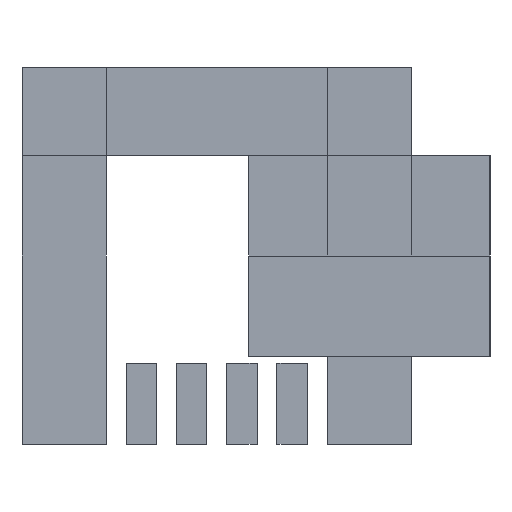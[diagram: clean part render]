
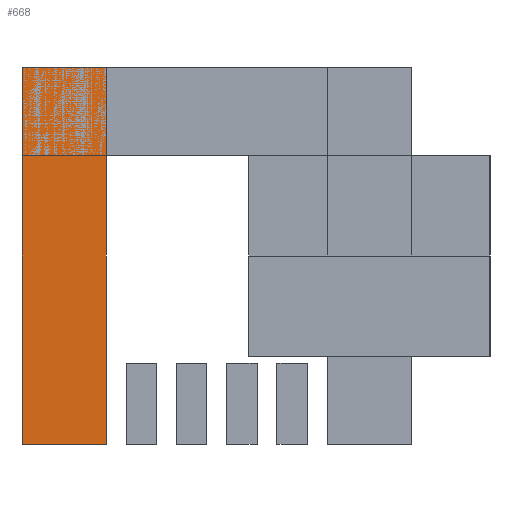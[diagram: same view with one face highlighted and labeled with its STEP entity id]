
A CAD part, left-side view. The second image highlights one B-rep face of the part: STEP entity #668.
In plain terms, the highlighted planar face has unit normal (-1, 0, 0).
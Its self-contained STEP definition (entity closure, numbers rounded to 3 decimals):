
#668 = ADVANCED_FACE('',(#669),#683,.F.);
#669 = FACE_BOUND('',#670,.F.);
#670 = EDGE_LOOP('',(#671,#706,#734,#762));
#671 = ORIENTED_EDGE('',*,*,#672,.F.);
#672 = EDGE_CURVE('',#673,#675,#677,.T.);
#673 = VERTEX_POINT('',#674);
#674 = CARTESIAN_POINT('',(0.,8.79,50.));
#675 = VERTEX_POINT('',#676);
#676 = CARTESIAN_POINT('',(0.,8.79,80.));
#677 = SURFACE_CURVE('',#678,(#682,#694),.PCURVE_S1.);
#678 = LINE('',#679,#680);
#679 = CARTESIAN_POINT('',(0.,8.79,50.));
#680 = VECTOR('',#681,1.);
#681 = DIRECTION('',(0.,0.,1.));
#682 = PCURVE('',#683,#688);
#683 = PLANE('',#684);
#684 = AXIS2_PLACEMENT_3D('',#685,#686,#687);
#685 = CARTESIAN_POINT('',(0.,8.79,50.));
#686 = DIRECTION('',(1.,0.,0.));
#687 = DIRECTION('',(0.,0.,1.));
#688 = DEFINITIONAL_REPRESENTATION('',(#689),#693);
#689 = LINE('',#690,#691);
#690 = CARTESIAN_POINT('',(0.,0.));
#691 = VECTOR('',#692,1.);
#692 = DIRECTION('',(1.,0.));
#693 = ( GEOMETRIC_REPRESENTATION_CONTEXT(2) 
PARAMETRIC_REPRESENTATION_CONTEXT() REPRESENTATION_CONTEXT('2D SPACE',''
  ) );
#694 = PCURVE('',#695,#700);
#695 = PLANE('',#696);
#696 = AXIS2_PLACEMENT_3D('',#697,#698,#699);
#697 = CARTESIAN_POINT('',(0.,8.79,50.));
#698 = DIRECTION('',(0.,1.,0.));
#699 = DIRECTION('',(0.,0.,1.));
#700 = DEFINITIONAL_REPRESENTATION('',(#701),#705);
#701 = LINE('',#702,#703);
#702 = CARTESIAN_POINT('',(0.,0.));
#703 = VECTOR('',#704,1.);
#704 = DIRECTION('',(1.,0.));
#705 = ( GEOMETRIC_REPRESENTATION_CONTEXT(2) 
PARAMETRIC_REPRESENTATION_CONTEXT() REPRESENTATION_CONTEXT('2D SPACE',''
  ) );
#706 = ORIENTED_EDGE('',*,*,#707,.T.);
#707 = EDGE_CURVE('',#673,#708,#710,.T.);
#708 = VERTEX_POINT('',#709);
#709 = CARTESIAN_POINT('',(0.,15.5,50.));
#710 = SURFACE_CURVE('',#711,(#715,#722),.PCURVE_S1.);
#711 = LINE('',#712,#713);
#712 = CARTESIAN_POINT('',(0.,8.79,50.));
#713 = VECTOR('',#714,1.);
#714 = DIRECTION('',(0.,1.,0.));
#715 = PCURVE('',#683,#716);
#716 = DEFINITIONAL_REPRESENTATION('',(#717),#721);
#717 = LINE('',#718,#719);
#718 = CARTESIAN_POINT('',(0.,0.));
#719 = VECTOR('',#720,1.);
#720 = DIRECTION('',(0.,-1.));
#721 = ( GEOMETRIC_REPRESENTATION_CONTEXT(2) 
PARAMETRIC_REPRESENTATION_CONTEXT() REPRESENTATION_CONTEXT('2D SPACE',''
  ) );
#722 = PCURVE('',#723,#728);
#723 = PLANE('',#724);
#724 = AXIS2_PLACEMENT_3D('',#725,#726,#727);
#725 = CARTESIAN_POINT('',(0.,8.79,50.));
#726 = DIRECTION('',(0.,0.,1.));
#727 = DIRECTION('',(1.,0.,0.));
#728 = DEFINITIONAL_REPRESENTATION('',(#729),#733);
#729 = LINE('',#730,#731);
#730 = CARTESIAN_POINT('',(0.,0.));
#731 = VECTOR('',#732,1.);
#732 = DIRECTION('',(0.,1.));
#733 = ( GEOMETRIC_REPRESENTATION_CONTEXT(2) 
PARAMETRIC_REPRESENTATION_CONTEXT() REPRESENTATION_CONTEXT('2D SPACE',''
  ) );
#734 = ORIENTED_EDGE('',*,*,#735,.T.);
#735 = EDGE_CURVE('',#708,#736,#738,.T.);
#736 = VERTEX_POINT('',#737);
#737 = CARTESIAN_POINT('',(0.,15.5,80.));
#738 = SURFACE_CURVE('',#739,(#743,#750),.PCURVE_S1.);
#739 = LINE('',#740,#741);
#740 = CARTESIAN_POINT('',(0.,15.5,50.));
#741 = VECTOR('',#742,1.);
#742 = DIRECTION('',(0.,0.,1.));
#743 = PCURVE('',#683,#744);
#744 = DEFINITIONAL_REPRESENTATION('',(#745),#749);
#745 = LINE('',#746,#747);
#746 = CARTESIAN_POINT('',(0.,-6.71));
#747 = VECTOR('',#748,1.);
#748 = DIRECTION('',(1.,0.));
#749 = ( GEOMETRIC_REPRESENTATION_CONTEXT(2) 
PARAMETRIC_REPRESENTATION_CONTEXT() REPRESENTATION_CONTEXT('2D SPACE',''
  ) );
#750 = PCURVE('',#751,#756);
#751 = PLANE('',#752);
#752 = AXIS2_PLACEMENT_3D('',#753,#754,#755);
#753 = CARTESIAN_POINT('',(0.,15.5,50.));
#754 = DIRECTION('',(0.,1.,0.));
#755 = DIRECTION('',(0.,0.,1.));
#756 = DEFINITIONAL_REPRESENTATION('',(#757),#761);
#757 = LINE('',#758,#759);
#758 = CARTESIAN_POINT('',(0.,0.));
#759 = VECTOR('',#760,1.);
#760 = DIRECTION('',(1.,0.));
#761 = ( GEOMETRIC_REPRESENTATION_CONTEXT(2) 
PARAMETRIC_REPRESENTATION_CONTEXT() REPRESENTATION_CONTEXT('2D SPACE',''
  ) );
#762 = ORIENTED_EDGE('',*,*,#763,.F.);
#763 = EDGE_CURVE('',#675,#736,#764,.T.);
#764 = SURFACE_CURVE('',#765,(#769,#776),.PCURVE_S1.);
#765 = LINE('',#766,#767);
#766 = CARTESIAN_POINT('',(0.,8.79,80.));
#767 = VECTOR('',#768,1.);
#768 = DIRECTION('',(0.,1.,0.));
#769 = PCURVE('',#683,#770);
#770 = DEFINITIONAL_REPRESENTATION('',(#771),#775);
#771 = LINE('',#772,#773);
#772 = CARTESIAN_POINT('',(30.,0.));
#773 = VECTOR('',#774,1.);
#774 = DIRECTION('',(0.,-1.));
#775 = ( GEOMETRIC_REPRESENTATION_CONTEXT(2) 
PARAMETRIC_REPRESENTATION_CONTEXT() REPRESENTATION_CONTEXT('2D SPACE',''
  ) );
#776 = PCURVE('',#777,#782);
#777 = PLANE('',#778);
#778 = AXIS2_PLACEMENT_3D('',#779,#780,#781);
#779 = CARTESIAN_POINT('',(0.,8.79,80.));
#780 = DIRECTION('',(0.,0.,1.));
#781 = DIRECTION('',(1.,0.,0.));
#782 = DEFINITIONAL_REPRESENTATION('',(#783),#787);
#783 = LINE('',#784,#785);
#784 = CARTESIAN_POINT('',(0.,0.));
#785 = VECTOR('',#786,1.);
#786 = DIRECTION('',(0.,1.));
#787 = ( GEOMETRIC_REPRESENTATION_CONTEXT(2) 
PARAMETRIC_REPRESENTATION_CONTEXT() REPRESENTATION_CONTEXT('2D SPACE',''
  ) );
